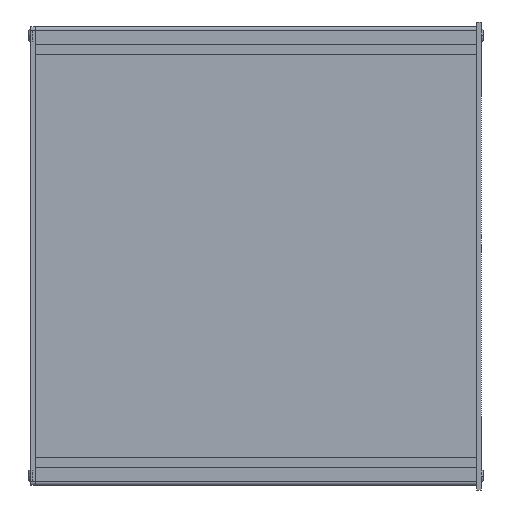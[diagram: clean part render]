
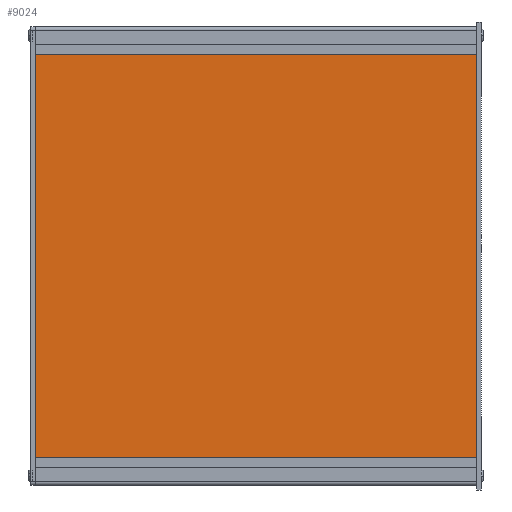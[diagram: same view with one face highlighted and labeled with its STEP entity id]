
A CAD part, left-side view. The second image highlights one B-rep face of the part: STEP entity #9024.
In plain terms, the highlighted planar face has unit normal (-1, 0, 0).
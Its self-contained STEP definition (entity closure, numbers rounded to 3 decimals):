
#992=PLANE('',#9904);
#1288=FACE_OUTER_BOUND('',#1844,.T.);
#1844=EDGE_LOOP('',(#6887,#6888,#6889,#6890));
#2674=LINE('',#14248,#3374);
#2684=LINE('',#14269,#3384);
#2685=LINE('',#14271,#3385);
#2686=LINE('',#14272,#3386);
#3374=VECTOR('',#11408,10.);
#3384=VECTOR('',#11426,10.);
#3385=VECTOR('',#11427,10.);
#3386=VECTOR('',#11428,10.);
#4430=VERTEX_POINT('',#14241);
#4433=VERTEX_POINT('',#14246);
#4440=VERTEX_POINT('',#14268);
#4441=VERTEX_POINT('',#14270);
#5317=EDGE_CURVE('',#4430,#4433,#2674,.T.);
#5327=EDGE_CURVE('',#4430,#4440,#2684,.T.);
#5328=EDGE_CURVE('',#4441,#4433,#2685,.T.);
#5329=EDGE_CURVE('',#4440,#4441,#2686,.T.);
#6887=ORIENTED_EDGE('',*,*,#5327,.F.);
#6888=ORIENTED_EDGE('',*,*,#5317,.T.);
#6889=ORIENTED_EDGE('',*,*,#5328,.F.);
#6890=ORIENTED_EDGE('',*,*,#5329,.F.);
#9024=ADVANCED_FACE('',(#1288),#992,.T.);
#9904=AXIS2_PLACEMENT_3D('',#14267,#11424,#11425);
#11408=DIRECTION('',(0.,1.,0.));
#11424=DIRECTION('center_axis',(-1.,0.,0.));
#11425=DIRECTION('ref_axis',(0.,0.,1.));
#11426=DIRECTION('',(0.,0.,-1.));
#11427=DIRECTION('',(0.,0.,1.));
#11428=DIRECTION('',(0.,1.,0.));
#14241=CARTESIAN_POINT('',(239.,0.,69.8));
#14246=CARTESIAN_POINT('',(239.,250.,69.8));
#14248=CARTESIAN_POINT('',(239.,0.,69.8));
#14267=CARTESIAN_POINT('Origin',(239.,0.,-157.9));
#14268=CARTESIAN_POINT('',(239.,0.,-157.9));
#14269=CARTESIAN_POINT('',(239.,0.,-44.05));
#14270=CARTESIAN_POINT('',(239.,250.,-157.9));
#14271=CARTESIAN_POINT('',(239.,250.,-44.05));
#14272=CARTESIAN_POINT('',(239.,0.,-157.9));
